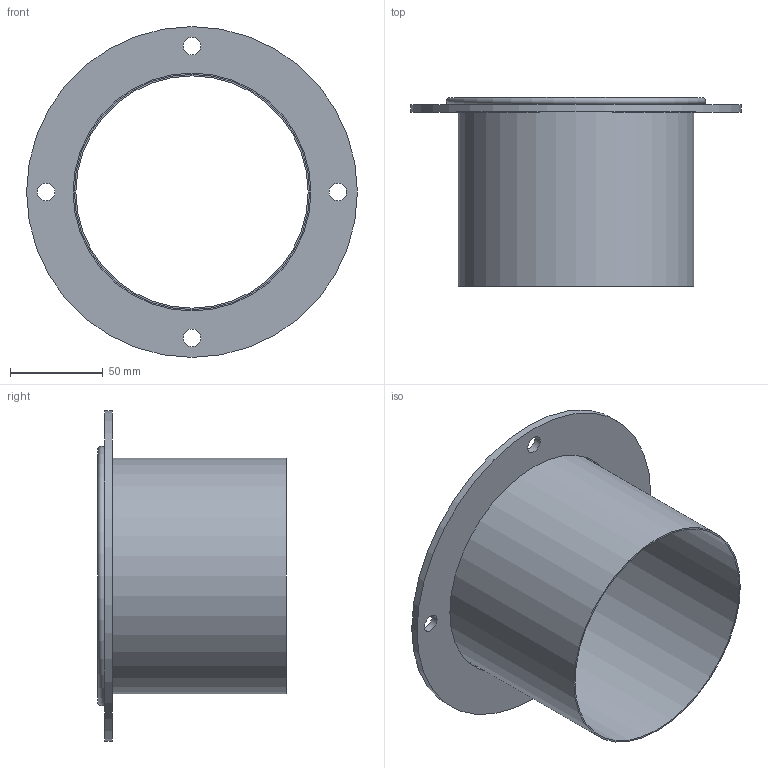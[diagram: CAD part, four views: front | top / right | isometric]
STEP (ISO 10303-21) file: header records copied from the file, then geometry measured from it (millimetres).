
FILE_DESCRIPTION(/* description */ (''),/* implementation_level */ '2;1');
FILE_NAME(/* name */ 'METU_AA122-41B_125_L100.stp',/* time_stamp */ '2018-10-10T11:35:30+02:00',/* author */ (''),/* organization */ (''),/* preprocessor_version */ 'ST-DEVELOPER v11',/* originating_system */ 'SIEMENS UGS NX 6.0',/* authorisation */ '');
FILE_SCHEMA (('CONFIG_CONTROL_DESIGN'));
Length unit declared in the file: millimetre
Products named in the file (1): garsCF17ddsm
Bounding box: 178 x 101.5 x 178 mm (x, y, z)
Volume: 88622.2 mm3; surface area: 124168.3 mm2
Topology: 3 solids, 3 shells, 23 faces, 47 edges, 33 vertices
Faces by surface type: cylinder 12, plane 9, torus 2
Full cylindrical faces by diameter (mm): 9.5 x4, 125 x2, 126.6 x2, 128 x1, 136.6 x2, 178 x1
Entity records: 614 total; most frequent: DIRECTION 102, CARTESIAN_POINT 78, FACE_BOUND 54, EDGE_LOOP 54, ORIENTED_EDGE 54, AXIS2_PLACEMENT_3D 51, VERTEX_POINT 27, EDGE_CURVE 27
